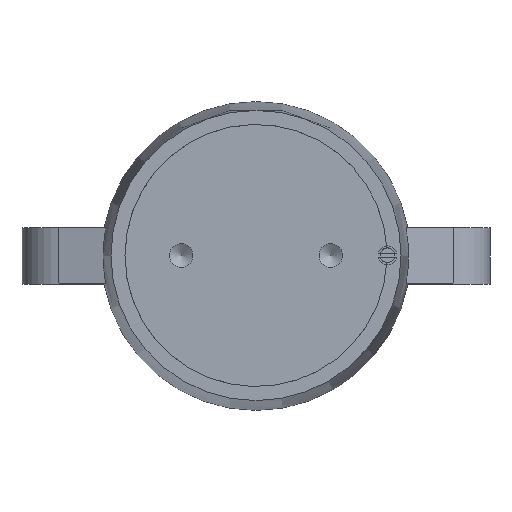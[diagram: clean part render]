
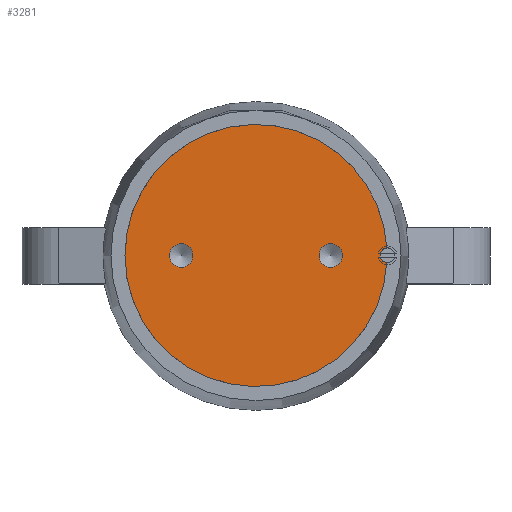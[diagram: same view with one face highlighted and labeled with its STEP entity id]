
A CAD part, top view. The second image highlights one B-rep face of the part: STEP entity #3281.
In plain terms, the highlighted planar face has unit normal (0, 0, 1).
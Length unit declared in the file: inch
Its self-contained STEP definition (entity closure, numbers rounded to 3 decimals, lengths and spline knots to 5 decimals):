
#164=PLANE('',#3578);
#255=FACE_BOUND('',#924,.T.);
#256=FACE_BOUND('',#925,.T.);
#668=FACE_OUTER_BOUND('',#923,.T.);
#923=EDGE_LOOP('',(#2344,#2345));
#924=EDGE_LOOP('',(#2346));
#925=EDGE_LOOP('',(#2347));
#1156=CIRCLE('',#3577,0.098);
#1157=CIRCLE('',#3579,1.75);
#1158=CIRCLE('',#3580,0.15745);
#1159=CIRCLE('',#3581,0.15745);
#1431=VERTEX_POINT('',#5037);
#1433=VERTEX_POINT('',#5041);
#1434=VERTEX_POINT('',#5046);
#1435=VERTEX_POINT('',#5048);
#1770=EDGE_CURVE('',#1431,#1433,#1156,.T.);
#1771=EDGE_CURVE('',#1433,#1431,#1157,.T.);
#1772=EDGE_CURVE('',#1434,#1434,#1158,.T.);
#1773=EDGE_CURVE('',#1435,#1435,#1159,.T.);
#2344=ORIENTED_EDGE('',*,*,#1770,.T.);
#2345=ORIENTED_EDGE('',*,*,#1771,.T.);
#2346=ORIENTED_EDGE('',*,*,#1772,.T.);
#2347=ORIENTED_EDGE('',*,*,#1773,.T.);
#3281=ADVANCED_FACE('',(#668,#255,#256),#164,.T.);
#3577=AXIS2_PLACEMENT_3D('',#5043,#4123,#4124);
#3578=AXIS2_PLACEMENT_3D('',#5044,#4125,#4126);
#3579=AXIS2_PLACEMENT_3D('',#5045,#4127,#4128);
#3580=AXIS2_PLACEMENT_3D('',#5047,#4129,#4130);
#3581=AXIS2_PLACEMENT_3D('',#5049,#4131,#4132);
#4123=DIRECTION('center_axis',(0.,0.,
-1.));
#4124=DIRECTION('ref_axis',(1.,0.,0.));
#4125=DIRECTION('center_axis',(0.,0.,
1.));
#4126=DIRECTION('ref_axis',(1.,0.,0.));
#4127=DIRECTION('center_axis',(0.,0.,
1.));
#4128=DIRECTION('ref_axis',(1.,0.,0.));
#4129=DIRECTION('center_axis',(0.,0.,
-1.));
#4130=DIRECTION('ref_axis',(1.,0.,0.));
#4131=DIRECTION('center_axis',(0.,0.,
-1.));
#4132=DIRECTION('ref_axis',(1.,0.,0.));
#5037=CARTESIAN_POINT('',(1.74743,-0.09477,10.));
#5041=CARTESIAN_POINT('',(1.74711,0.10049,10.));
#5043=CARTESIAN_POINT('Origin',(1.75577,0.00288,10.));
#5044=CARTESIAN_POINT('Origin',(0.875,0.,10.));
#5045=CARTESIAN_POINT('Origin',(0.,0.,
10.));
#5046=CARTESIAN_POINT('',(-0.84255,0.,10.));
#5047=CARTESIAN_POINT('Origin',(-1.,0.,10.));
#5048=CARTESIAN_POINT('',(1.15745,0.,10.));
#5049=CARTESIAN_POINT('Origin',(1.,0.,10.));
